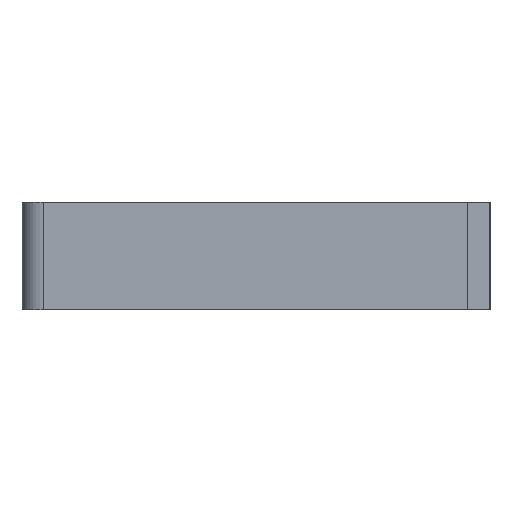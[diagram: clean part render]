
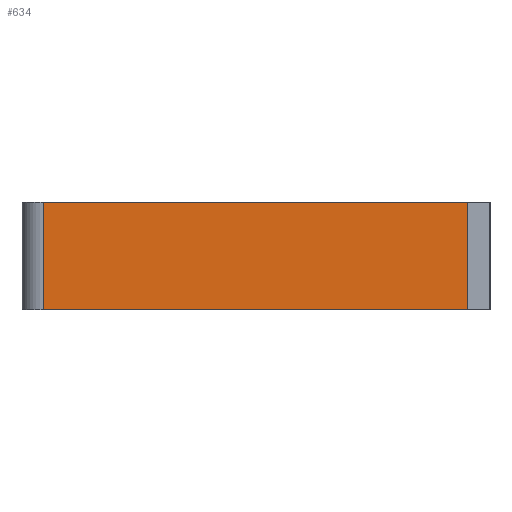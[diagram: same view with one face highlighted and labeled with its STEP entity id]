
A CAD part, left-side view. The second image highlights one B-rep face of the part: STEP entity #634.
In plain terms, the highlighted planar face has unit normal (-1, 0, 0).
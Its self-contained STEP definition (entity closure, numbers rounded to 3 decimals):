
#442=CARTESIAN_POINT('',(-0.842,-0.339,-0.15));
#443=VERTEX_POINT('',#442);
#450=CARTESIAN_POINT('',(-0.842,0.841,-0.15));
#451=VERTEX_POINT('',#450);
#452=CARTESIAN_POINT('',(-0.842,-0.339,-0.15));
#453=DIRECTION('',(0.0,1.0,0.0));
#454=VECTOR('',#453,1.18);
#455=LINE('',#452,#454);
#456=EDGE_CURVE('',#443,#451,#455,.T.);
#591=CARTESIAN_POINT('',(-0.842,0.841,0.15));
#592=VERTEX_POINT('',#591);
#602=CARTESIAN_POINT('',(-0.842,0.841,-0.15));
#603=DIRECTION('',(0.0,0.0,1.0));
#604=VECTOR('',#603,0.3);
#605=LINE('',#602,#604);
#606=EDGE_CURVE('',#451,#592,#605,.T.);
#611=CARTESIAN_POINT('',(-0.842,-0.339,-0.15));
#612=DIRECTION('',(-1.0,0.0,0.0));
#613=DIRECTION('',(0.0,0.0,1.0));
#614=AXIS2_PLACEMENT_3D('',#611,#612,#613);
#615=PLANE('',#614);
#616=ORIENTED_EDGE('',*,*,#606,.F.);
#617=ORIENTED_EDGE('',*,*,#456,.F.);
#618=CARTESIAN_POINT('',(-0.842,-0.339,0.15));
#619=VERTEX_POINT('',#618);
#620=CARTESIAN_POINT('',(-0.842,-0.339,-0.15));
#621=DIRECTION('',(0.0,0.0,1.0));
#622=VECTOR('',#621,0.3);
#623=LINE('',#620,#622);
#624=EDGE_CURVE('',#443,#619,#623,.T.);
#625=ORIENTED_EDGE('',*,*,#624,.T.);
#626=CARTESIAN_POINT('',(-0.842,-0.339,0.15));
#627=DIRECTION('',(0.0,1.0,0.0));
#628=VECTOR('',#627,1.18);
#629=LINE('',#626,#628);
#630=EDGE_CURVE('',#619,#592,#629,.T.);
#631=ORIENTED_EDGE('',*,*,#630,.T.);
#632=EDGE_LOOP('',(#616,#617,#625,#631));
#633=FACE_OUTER_BOUND('',#632,.T.);
#634=ADVANCED_FACE('',(#633),#615,.T.);
